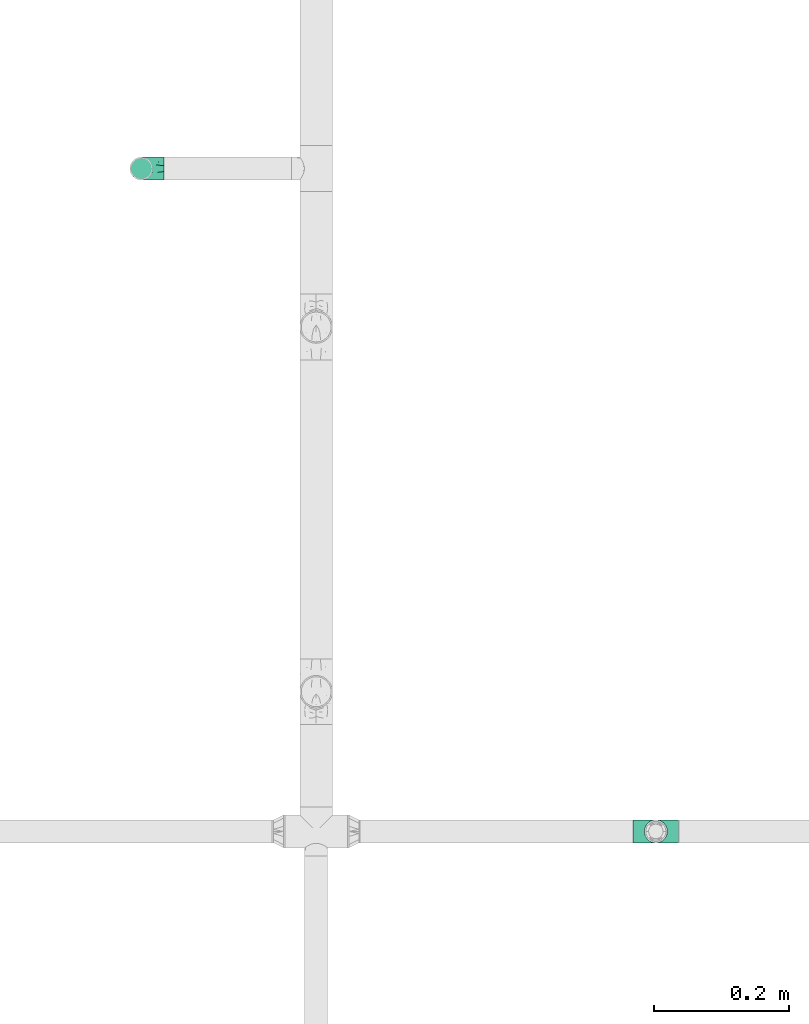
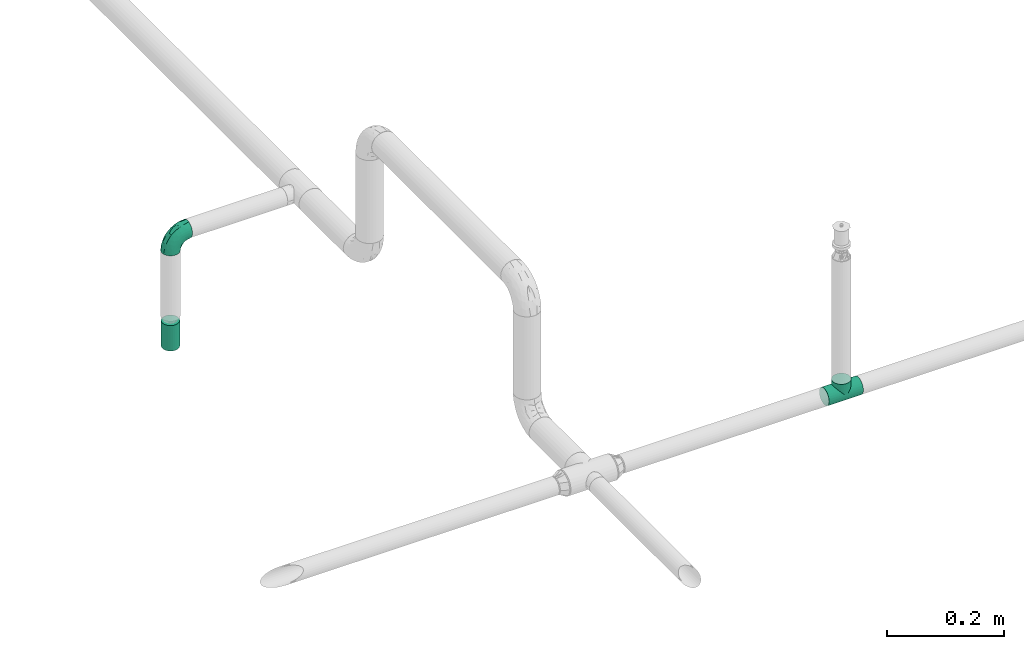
# One storey, part 43 of 157: 2 flow fittings, 1 flow terminal.
"""IFC2X3 building model written with IfcOpenShell, lengths in millimetres."""

from ifc_helpers import new_model, entity, si_unit, converted_unit, derived_unit, direction, frame, origin_with_axes, place, context, subcontext, project, spatial, open_shell, surface_model, source, transform, mapped, type_object, element, save


model = new_model("IFC2X3")

# Units and contexts
model_context = context("Model", 3, precision=0.01, world=frame((0.0, 4.29681676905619e-09, 0.0)), true_north=direction((4.01073788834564e-13, 1.0)))
plan_context = context("Plan", 3, precision=0.01, world=frame((0.0, 4.29681676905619e-09, 0.0)), true_north=direction((4.01073788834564e-13, 1.0)))
body_context = subcontext(model_context, "Body", "Model", "MODEL_VIEW")
ifc_project = project(units=[converted_unit("PLANEANGLEUNIT", "DEGREE", entity("IfcPositiveLengthMeasure", 0.0174532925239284), si_unit("PLANEANGLEUNIT", "RADIAN"), dimensions=[0, 0, 0, 0, 0, 0, 0]), si_unit("AREAUNIT", "SQUARE_METRE"), si_unit("LENGTHUNIT", "METRE", prefix="MILLI"), si_unit("MASSUNIT", "GRAM", prefix="KILO"), si_unit("POWERUNIT", "WATT"), si_unit("PRESSUREUNIT", "PASCAL"), si_unit("FORCEUNIT", "NEWTON", prefix="KILO"), si_unit("ELECTRICCURRENTUNIT", "AMPERE"), si_unit("THERMODYNAMICTEMPERATUREUNIT", "DEGREE_CELSIUS"), si_unit("TIMEUNIT", "SECOND"), si_unit("VOLUMEUNIT", "CUBIC_METRE"), derived_unit("LINEARVELOCITYUNIT", [(si_unit("LENGTHUNIT", "METRE"), 1), (si_unit("TIMEUNIT", "SECOND"), -1)]), derived_unit("VOLUMETRICFLOWRATEUNIT", [(si_unit("VOLUMEUNIT", "CUBIC_METRE"), 1), (si_unit("TIMEUNIT", "SECOND"), -1)]), derived_unit("THERMALTRANSMITTANCEUNIT", [(si_unit("POWERUNIT", "WATT"), 1), (si_unit("THERMODYNAMICTEMPERATUREUNIT", "KELVIN"), -1), (si_unit("AREAUNIT", "SQUARE_METRE"), -1)])], contexts=[model_context, plan_context])

# Site, building, storey
site_placement = place(None, frame((0.0, -4.29681676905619e-09, 0.0), z_axis=(0.0, 0.0, 1.0), x_axis=(1.0, 0.0, 0.0)))
site = spatial("IfcSite", under=ifc_project, at=site_placement, CompositionType="ELEMENT")
building_placement = place(site_placement, frame((0.0, 4.29681676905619e-09, 0.0), z_axis=(0.0, 0.0, 1.0), x_axis=(1.0, 0.0, 0.0)))
building = spatial("IfcBuilding", under=site, at=building_placement, Name="mc-building", CompositionType="ELEMENT")
storey_placement = place(building_placement, frame((0.0, 0.0, 204000.0), z_axis=(0.0, 0.0, 1.0), x_axis=(1.0, 0.0, 0.0)))
storey = spatial("IfcBuildingStorey", under=building, at=storey_placement, Name="Nivå D", CompositionType="ELEMENT", Elevation=204000.0)

# Flow fittings
pipe_fitting_type_1 = type_object("IfcPipeFittingType", Name="magi_pipe_fe_tee_centric_90_NOR", PredefinedType="JUNCTION")
shared_shape_1 = source(origin_with_axes(), body_context, "Body", "SurfaceModel", [
    surface_model("IfcShellBasedSurfaceModel", [(-33.8, 4.37404, -16.32415), (-33.8, 0.0, -16.9), (-33.8, 16.32415, -4.37404), (-33.8, 8.45, -14.63583), (-33.8, 11.9501, -11.9501), (-33.8, 14.63583, -8.45), (-33.8, -16.9, 0.0), (-33.8, -11.9501, -11.9501), (-33.8, -14.63583, -8.45), (-33.8, -8.45, -14.63583), (-33.8, -4.37404, -16.32415), (-33.8, -16.32415, -4.37404), (-33.8, 14.63583, 8.45), (-33.8, 16.32415, 4.37404), (-33.8, -8.45, 14.63583), (-33.8, 8.45, 14.63583), (-33.8, 11.9501, 11.9501), (-33.8, 4.37404, 16.32415), (-33.8, 0.0, 16.9), (-33.8, -11.9501, 11.9501), (-33.8, -14.63583, 8.45), (-33.8, -16.32415, 4.37404), (-33.8, -4.37404, 16.32415), (-33.8, 16.9, 0.0), (33.8, 4.37404, -16.32415), (33.8, -16.9, 0.0), (33.8, 0.0, -16.9), (33.8, 14.63583, -8.45), (33.8, 8.45, -14.63583), (33.8, 16.32415, -4.37404), (33.8, 11.9501, -11.9501), (33.8, -16.32415, 4.37404), (33.8, -8.45, -14.63583), (33.8, -4.37404, -16.32415), (33.8, -11.9501, -11.9501), (33.8, -14.63583, -8.45), (33.8, -16.32415, -4.37404), (33.8, 16.32415, 4.37404), (33.8, 8.45, 14.63583), (33.8, 14.63583, 8.45), (33.8, 11.9501, 11.9501), (33.8, -8.45, 14.63583), (33.8, 4.37404, 16.32415), (33.8, -14.63583, 8.45), (33.8, -11.9501, 11.9501), (33.8, 0.0, 16.9), (33.8, -4.37404, 16.32415), (33.8, 16.9, 0.0), (16.28698, -16.28698, 4.51047), (16.9, -16.9, 0.0), (14.62704, -14.62704, 8.4652), (9.47213, -9.47213, 13.99602), (12.26343, -12.26343, 11.62834), (-16.9, -16.9, 0.0), (-16.28698, -16.28698, 4.51047), (-14.62704, -14.62704, 8.4652), (-12.26343, -12.26343, 11.62834), (-9.47213, -9.47213, 13.99602), (-6.42894, -6.42894, 15.62942), (6.42894, -6.42894, 15.62942), (3.24522, -3.24522, 16.58549), (0.0, 0.0, 16.9), (-3.24522, -3.24522, 16.58549), (3.24522, -3.24522, -16.58549), (0.0, 0.0, -16.9), (-3.24522, -3.24522, -16.58549), (-6.42894, -6.42894, -15.62942), (6.42894, -6.42894, -15.62942), (9.47213, -9.47213, -13.99602), (12.26343, -12.26343, -11.62834), (14.62704, -14.62704, -8.4652), (16.28698, -16.28698, -4.51047), (-9.47213, -9.47213, -13.99602), (-12.26343, -12.26343, -11.62834), (-16.28698, -16.28698, -4.51047), (-14.62704, -14.62704, -8.4652), (4.37404, -25.35, -16.32415), (-16.9, -25.35, 0.0), (0.0, -25.35, -16.9), (14.63583, -25.35, -8.45), (8.45, -25.35, -14.63583), (16.32415, -25.35, -4.37404), (11.9501, -25.35, -11.9501), (-11.9501, -25.35, -11.9501), (-8.45, -25.35, -14.63583), (-4.37404, -25.35, -16.32415), (-14.63583, -25.35, -8.45), (-16.32415, -25.35, -4.37404), (16.9, -25.35, 0.0), (8.45, -25.35, 14.63583), (16.32415, -25.35, 4.37404), (14.63583, -25.35, 8.45), (-8.45, -25.35, 14.63583), (11.9501, -25.35, 11.9501), (4.37404, -25.35, 16.32415), (-16.32415, -25.35, 4.37404), (-11.9501, -25.35, 11.9501), (-14.63583, -25.35, 8.45), (0.0, -25.35, 16.9), (-4.37404, -25.35, 16.32415)], [open_shell([[[0, 1, 2]], [[3, 0, 4]], [[0, 2, 5]], [[4, 0, 5]], [[6, 2, 1]], [[7, 8, 9]], [[1, 10, 9]], [[11, 6, 8]], [[1, 9, 8]], [[1, 8, 6]], [[6, 12, 2]], [[12, 13, 2]], [[14, 12, 6]], [[12, 14, 15]], [[16, 12, 15]], [[17, 15, 18]], [[19, 14, 20]], [[21, 20, 14]], [[22, 18, 14]], [[14, 6, 21]], [[14, 18, 15]], [[23, 2, 13]], [[24, 25, 26]], [[27, 24, 28]], [[27, 29, 24]], [[27, 28, 30]], [[31, 25, 24]], [[26, 32, 33]], [[26, 34, 32]], [[35, 25, 36]], [[35, 34, 26]], [[25, 35, 26]], [[24, 29, 31]], [[29, 37, 38]], [[38, 37, 39]], [[38, 31, 29]], [[38, 39, 40]], [[41, 38, 42]], [[43, 41, 44]], [[41, 43, 31]], [[41, 45, 46]], [[41, 31, 38]], [[42, 45, 41]], [[29, 47, 37]], [[31, 43, 48]], [[25, 31, 49]], [[49, 31, 48]], [[43, 50, 48]], [[44, 41, 51]], [[50, 43, 52]], [[51, 52, 44]], [[52, 43, 44]], [[53, 54, 21]], [[53, 21, 6]], [[21, 54, 20]], [[54, 55, 20]], [[56, 57, 19]], [[19, 20, 56]], [[19, 57, 14]], [[56, 20, 55]], [[14, 57, 58]], [[51, 41, 59]], [[60, 45, 61]], [[59, 46, 60]], [[46, 59, 41]], [[60, 46, 45]], [[61, 45, 42]], [[39, 37, 13]], [[16, 38, 40]], [[12, 40, 39]], [[42, 38, 15]], [[23, 37, 47]], [[62, 61, 18]], [[62, 22, 58]], [[22, 62, 18]], [[58, 22, 14]], [[61, 17, 18]], [[42, 17, 61]], [[15, 17, 42]], [[15, 38, 16]], [[12, 16, 40]], [[13, 12, 39]], [[37, 23, 13]], [[5, 27, 30]], [[23, 47, 29]], [[30, 28, 3]], [[27, 2, 29]], [[26, 33, 63]], [[26, 64, 24]], [[64, 26, 63]], [[28, 24, 0]], [[64, 0, 24]], [[4, 30, 3]], [[2, 27, 5]], [[5, 30, 4]], [[2, 23, 29]], [[65, 66, 10]], [[1, 0, 64]], [[1, 65, 10]], [[66, 9, 10]], [[0, 3, 28]], [[1, 64, 65]], [[63, 33, 67]], [[32, 34, 68]], [[69, 68, 34]], [[35, 70, 69]], [[69, 34, 35]], [[32, 68, 67]], [[36, 25, 49]], [[36, 71, 35]], [[71, 36, 49]], [[35, 71, 70]], [[72, 9, 66]], [[72, 7, 9]], [[7, 72, 73]], [[7, 73, 8]], [[74, 53, 11]], [[75, 74, 8]], [[74, 11, 8]], [[11, 53, 6]], [[75, 8, 73]], [[32, 67, 33]], [[76, 77, 78]], [[79, 76, 80]], [[79, 81, 76]], [[79, 80, 82]], [[77, 76, 81]], [[78, 83, 84]], [[84, 85, 78]], [[86, 77, 87]], [[83, 78, 86]], [[77, 86, 78]], [[81, 88, 77]], [[89, 88, 90]], [[89, 90, 91]], [[92, 77, 89]], [[89, 91, 93]], [[92, 89, 94]], [[95, 96, 97]], [[96, 95, 92]], [[92, 98, 99]], [[95, 77, 92]], [[94, 98, 92]], [[89, 77, 88]], [[77, 95, 53]], [[54, 53, 95]], [[97, 96, 56]], [[96, 92, 57]], [[95, 97, 54]], [[58, 92, 99]], [[55, 54, 97]], [[56, 55, 97]], [[58, 57, 92]], [[98, 61, 62]], [[58, 99, 62]], [[56, 96, 57]], [[62, 99, 98]], [[94, 60, 98]], [[89, 59, 94]], [[91, 90, 48]], [[52, 93, 91]], [[93, 51, 89]], [[49, 90, 88]], [[59, 60, 94]], [[51, 59, 89]], [[49, 48, 90]], [[50, 52, 91]], [[48, 50, 91]], [[51, 93, 52]], [[98, 60, 61]], [[88, 81, 49]], [[71, 49, 81]], [[79, 82, 69]], [[82, 80, 68]], [[81, 79, 71]], [[67, 80, 76]], [[70, 71, 79]], [[69, 70, 79]], [[67, 68, 80]], [[78, 64, 63]], [[67, 76, 63]], [[69, 82, 68]], [[63, 76, 78]], [[85, 65, 78]], [[84, 66, 85]], [[86, 87, 74]], [[86, 73, 83]], [[72, 84, 83]], [[53, 87, 77]], [[66, 65, 85]], [[72, 66, 84]], [[53, 74, 87]], [[75, 73, 86]], [[74, 75, 86]], [[72, 83, 73]], [[78, 65, 64]]])]),
])
flow_fitting_1_placement = place(storey_placement, frame((528259.57985, 407221.65, 2880.0), z_axis=(0.0, 1.0, 0.0), x_axis=(1.0, 0.0, 0.0)))
element("IfcFlowFitting", 1, at=flow_fitting_1_placement, inside=storey, type_object=pipe_fitting_type_1, Name="magi_pipe_fe_tee_centric_90_NOR", context=body_context, shape_type="MappedRepresentation", body=[
    mapped(shared_shape_1, transform((0.0, 0.0, 0.0), scale=1.0)),
])
pipe_fitting_type_2 = type_object("IfcPipeFittingType", Name="magi_pipe_fe_elbow_short_001", PredefinedType="BEND")
shared_shape_2 = source(origin_with_axes(), body_context, "Body", "SurfaceModel", [
    surface_model("IfcShellBasedSurfaceModel", [(-33.8, 8.45, -14.63583), (-33.8, 4.37404, -16.32415), (-33.8, 11.9501, -11.9501), (-33.8, -11.9501, -11.9501), (-33.8, -14.63583, -8.45), (-33.8, -8.45, -14.63583), (-33.8, 0.0, -16.9), (-33.8, -4.37404, -16.32415), (-33.8, -4.37404, 16.32415), (-33.8, 0.0, 16.9), (-33.8, -8.45, 14.63583), (-33.8, 16.32415, -4.37404), (-33.8, 14.63583, -8.45), (-33.8, -16.32415, -4.37404), (-33.8, -16.9, 0.0), (-33.8, -16.32415, 4.37404), (-33.8, 11.9501, 11.9501), (-33.8, 14.63583, 8.45), (-33.8, 16.32415, 4.37404), (-33.8, 4.37404, 16.32415), (-33.8, 8.45, 14.63583), (-33.8, -14.63583, 8.45), (-33.8, -11.9501, 11.9501), (-33.8, 16.9, 0.0), (-11.9501, 33.8, -11.9501), (0.0, 33.8, -16.9), (-4.37404, 33.8, -16.32415), (-8.45, 33.8, -14.63583), (-14.63583, 33.8, -8.45), (-16.32415, 33.8, -4.37404), (14.63583, 33.8, -8.45), (8.45, 33.8, 14.63583), (16.32415, 33.8, -4.37404), (8.45, 33.8, -14.63583), (11.9501, 33.8, -11.9501), (4.37404, 33.8, -16.32415), (16.32415, 33.8, 4.37404), (16.9, 33.8, 0.0), (-11.9501, 33.8, 11.9501), (-16.32415, 33.8, 4.37404), (-14.63583, 33.8, 8.45), (-8.45, 33.8, 14.63583), (-4.37404, 33.8, 16.32415), (11.9501, 33.8, 11.9501), (14.63583, 33.8, 8.45), (0.0, 33.8, 16.9), (4.37404, 33.8, 16.32415), (-16.9, 33.8, 0.0), (-24.79389, -13.12945, 9.48721), (-22.19287, -9.75018, 12.59315), (-24.09897, -14.97035, 0.0), (-14.93934, -10.76256, 8.5297), (-22.46095, -14.75051, 5.27077), (14.75051, 22.46094, 5.27077), (11.9251, 13.23888, 4.33236), (13.04069, 14.39795, 0.0), (7.71387, 13.68847, 11.55891), (9.75018, 22.19287, 12.59315), (4.10169, 13.0571, 14.04018), (-24.84007, -6.39063, 15.2048), (-25.81779, -2.23879, 16.61097), (-23.66549, 2.59054, 16.87119), (-26.50418, 14.06512, 11.08152), (-24.21253, 17.66365, 7.72657), (-29.58514, 15.86957, 7.00283), (-6.17382, -7.5455, 0.0), (-13.23888, -11.9251, 4.33236), (-14.39795, -13.04069, 0.0), (-17.81434, 18.87373, 11.97104), (-6.30846, 29.15138, 15.82987), (-2.31622, 25.28002, 16.85849), (-29.23923, 10.23435, 13.77053), (-1.45439, -2.85688, 7.61475), (-0.28326, 0.34872, 10.09509), (-5.74484, -4.04709, 10.4122), (-4.41137, 11.31918, 16.59407), (-8.39727, 3.10034, 15.7812), (-1.72649, 9.1306, 15.53089), (-17.39909, 24.75344, 7.64977), (-26.19233, 20.0512, 0.0), (-28.14518, 17.29657, 4.25857), (-26.05147, 6.6281, 15.96447), (-5.87354, 16.61944, 16.86968), (-12.51807, 12.51807, 16.48937), (-10.06312, 7.38516, 16.81295), (-3.01882, 3.01882, 13.81718), (-13.0571, -4.10169, 14.04018), (-16.82553, -0.15166, 16.38038), (10.76256, 14.93934, 8.5297), (13.12945, 24.79389, 9.48721), (6.39063, 24.84007, 15.2048), (2.23879, 25.81779, 16.61097), (-13.68847, -7.71387, 11.55891), (14.97035, 24.09897, 0.0), (-7.30894, 22.89991, 16.09489), (-10.67958, 26.17414, 14.008), (-12.78295, 18.26924, 15.06066), (-13.88562, 22.45231, 12.93244), (-18.04944, 15.16501, 14.04434), (-23.11658, 20.08178, 4.02986), (-21.84989, 21.84989, 0.0), (-18.55817, 25.48277, 3.93065), (-13.95142, 26.94732, 11.03289), (-18.57098, 7.23906, 16.59756), (-16.58335, 4.14122, 16.89279), (-17.96666, 11.46709, 15.63151), (-9.84453, 17.54304, 16.18938), (0.15166, 16.82553, 16.38038), (-23.27207, 11.47201, 14.23154), (3.84842, 5.86994, 10.70473), (-8.0212, -7.54413, 7.93275), (1.00345, -2.19508, 4.57414), (5.13203, 3.01004, 5.90201), (5.24161, 1.7543, 2.53265), (8.70457, 7.04947, 3.99182), (-20.0512, 26.19233, 0.0), (8.4852, 8.76699, 7.09296), (-4.55488, -6.72064, 4.90681), (2.05031, -2.05031, 0.0), (7.5455, 6.17382, 0.0), (-26.75399, 2.1369, -16.845), (-14.61995, 24.73803, -11.27736), (-28.45274, -13.45335, -9.81895), (-26.00469, 6.63555, -15.96645), (-23.06726, 20.04573, -4.26202), (-13.80647, -4.26506, -14.17873), (-14.67501, -0.21081, -16.07388), (-6.7902, -0.2828, -13.8478), (-24.53586, 11.08096, -14.13417), (-26.72048, 14.00837, -11.05776), (10.0967, 24.44989, -12.75976), (5.83237, 21.40218, -15.03047), (6.66249, 28.54238, -15.38093), (-20.38182, 15.48705, -12.74596), (12.53268, 21.23441, -9.15363), (12.54494, 15.67504, -5.54878), (9.7522, 12.89279, -8.66343), (-15.65186, 19.64213, -13.01327), (-12.03528, 20.66498, -14.67665), (-15.61907, 15.61906, -14.83879), (-25.56551, -15.26206, 0.0), (-24.65452, -15.12934, -5.50955), (13.45335, 28.45274, -9.81895), (15.12934, 24.65452, -5.50955), (-7.35442, -8.31014, -5.65563), (-15.67504, -12.54494, -5.54878), (-24.44989, -10.0967, -12.75976), (0.16522, 0.41303, -9.71728), (-5.70658, -5.33066, -8.89288), (-5.13869, -2.37198, -11.53565), (-21.23441, -12.53268, -9.15363), (0.71146, 7.93863, -14.09382), (0.21081, 14.67501, -16.07388), (3.49291, 14.42772, -14.76381), (-24.89911, -2.13088, -16.591), (-28.54238, -6.66249, -15.38093), (-18.44386, -7.71663, -13.26957), (2.13088, 24.89911, -16.591), (-28.64342, 17.44413, -2.89318), (1.70017, -1.28722, -5.09504), (-16.57067, 26.81947, -7.36596), (-17.69055, 27.4263, -3.76405), (-12.89279, -9.7522, -8.66343), (-5.96611, 5.96611, -15.95814), (-20.53709, 20.09345, -8.28985), (-2.1369, 26.75399, -16.845), (-6.89872, 24.58781, -16.02578), (-10.60739, 26.53157, -13.98044), (-21.40218, -5.83237, -15.03047), (2.93192, 5.89627, -11.55917), (6.89393, 12.61842, -11.82233), (5.58056, 5.95325, -8.79455), (-3.99512, 18.61798, -16.89635), (8.31014, 7.35442, -5.65563), (-9.1383, 9.86148, -16.89041), (-9.99983, 16.02119, -16.39699), (-16.68576, 9.78031, -16.34199), (-27.01915, 16.61158, -7.12979), (15.26206, 25.56551, 0.0), (-18.61798, 3.99512, -16.89635), (-19.37495, 27.82495, 0.0), (-12.61842, -6.89393, -11.82233), (-18.84705, 19.14018, -10.96545)], [open_shell([[[0, 1, 2]], [[3, 4, 5]], [[6, 7, 5]], [[8, 9, 10]], [[1, 6, 2]], [[11, 12, 2]], [[4, 2, 6]], [[2, 13, 10]], [[5, 4, 6]], [[2, 4, 13]], [[14, 15, 13]], [[11, 2, 16]], [[11, 17, 18]], [[11, 16, 17]], [[19, 20, 16]], [[16, 2, 10]], [[19, 16, 10]], [[21, 22, 15]], [[22, 13, 15]], [[22, 10, 13]], [[10, 9, 19]], [[11, 18, 23]], [[24, 25, 26]], [[24, 26, 27]], [[24, 28, 29]], [[25, 24, 30]], [[31, 32, 24]], [[33, 30, 34]], [[33, 35, 25]], [[25, 30, 33]], [[32, 30, 24]], [[32, 36, 37]], [[38, 24, 29]], [[39, 40, 29]], [[40, 38, 29]], [[38, 41, 42]], [[38, 31, 24]], [[31, 38, 42]], [[36, 43, 44]], [[36, 32, 43]], [[31, 45, 46]], [[32, 31, 43]], [[42, 45, 31]], [[39, 29, 47]], [[22, 48, 49]], [[15, 14, 50]], [[51, 48, 52]], [[53, 54, 55]], [[48, 22, 21]], [[15, 52, 21]], [[56, 57, 58]], [[49, 10, 22]], [[49, 59, 10]], [[9, 60, 61]], [[62, 63, 64]], [[65, 66, 67]], [[57, 43, 31]], [[62, 68, 63]], [[42, 69, 70]], [[20, 71, 16]], [[8, 60, 9]], [[72, 73, 74]], [[75, 76, 77]], [[16, 62, 17]], [[40, 39, 78]], [[79, 23, 80]], [[64, 18, 17]], [[9, 61, 19]], [[19, 81, 20]], [[82, 83, 84]], [[74, 85, 86]], [[59, 86, 87]], [[88, 89, 57]], [[90, 31, 46]], [[44, 53, 36]], [[46, 45, 91]], [[54, 53, 88]], [[44, 89, 53]], [[92, 86, 49]], [[89, 44, 43]], [[10, 59, 8]], [[53, 55, 93]], [[93, 36, 53]], [[66, 52, 67]], [[94, 82, 70]], [[95, 96, 94]], [[97, 98, 96]], [[79, 99, 100]], [[41, 38, 95]], [[101, 100, 99]], [[68, 78, 63]], [[42, 41, 69]], [[23, 18, 80]], [[95, 94, 69]], [[78, 101, 99]], [[38, 102, 95]], [[70, 45, 42]], [[97, 95, 102]], [[15, 50, 52]], [[90, 57, 31]], [[57, 90, 58]], [[81, 19, 61]], [[103, 104, 84]], [[105, 81, 103]], [[38, 40, 102]], [[106, 96, 83]], [[94, 106, 82]], [[91, 70, 107]], [[71, 62, 16]], [[62, 108, 98]], [[86, 59, 49]], [[67, 52, 50]], [[60, 59, 87]], [[92, 49, 51]], [[86, 85, 76]], [[91, 90, 46]], [[37, 36, 93]], [[107, 77, 58]], [[107, 58, 90]], [[58, 85, 109]], [[110, 74, 92]], [[72, 74, 110]], [[66, 51, 52]], [[72, 111, 112]], [[113, 114, 112]], [[56, 88, 57]], [[52, 48, 21]], [[49, 48, 51]], [[57, 89, 43]], [[53, 89, 88]], [[103, 81, 61]], [[71, 81, 108]], [[18, 64, 80]], [[63, 78, 99]], [[47, 115, 101]], [[101, 115, 100]], [[40, 78, 102]], [[68, 102, 78]], [[97, 96, 95]], [[105, 98, 108]], [[103, 84, 83]], [[107, 70, 82]], [[76, 84, 87]], [[82, 84, 75]], [[70, 91, 45]], [[90, 91, 107]], [[59, 60, 8]], [[61, 60, 87]], [[73, 85, 74]], [[109, 112, 116]], [[103, 61, 104]], [[105, 103, 83]], [[96, 105, 83]], [[81, 105, 108]], [[96, 98, 105]], [[62, 98, 68]], [[61, 87, 104]], [[87, 84, 104]], [[86, 76, 87]], [[77, 76, 85]], [[58, 77, 85]], [[75, 77, 107]], [[82, 75, 107]], [[76, 75, 84]], [[81, 71, 20]], [[62, 71, 108]], [[95, 69, 41]], [[70, 69, 94]], [[62, 64, 17]], [[80, 63, 99]], [[63, 80, 64]], [[80, 99, 79]], [[66, 65, 117]], [[110, 66, 117]], [[112, 114, 116]], [[118, 117, 65]], [[110, 92, 51]], [[112, 111, 113]], [[119, 55, 54]], [[74, 86, 92]], [[58, 109, 56]], [[116, 56, 109]], [[66, 110, 51]], [[72, 110, 117]], [[111, 72, 117]], [[73, 112, 109]], [[117, 118, 111]], [[113, 111, 118]], [[118, 119, 113]], [[114, 119, 54]], [[119, 114, 113]], [[116, 54, 88]], [[54, 116, 114]], [[116, 88, 56]], [[112, 73, 72]], [[85, 73, 109]], [[78, 39, 101]], [[47, 101, 39]], [[102, 68, 97]], [[97, 68, 98]], [[82, 106, 83]], [[94, 96, 106]], [[1, 120, 6]], [[28, 24, 121]], [[3, 122, 4]], [[0, 123, 1]], [[100, 124, 79]], [[125, 126, 127]], [[128, 2, 129]], [[130, 131, 132]], [[128, 129, 133]], [[134, 135, 136]], [[137, 138, 139]], [[128, 0, 2]], [[67, 140, 141]], [[134, 142, 143]], [[141, 13, 4]], [[144, 65, 145]], [[146, 3, 5]], [[147, 148, 149]], [[145, 141, 150]], [[151, 152, 153]], [[154, 7, 6]], [[5, 155, 146]], [[150, 146, 156]], [[155, 5, 7]], [[143, 135, 134]], [[35, 157, 25]], [[23, 79, 158]], [[148, 159, 144]], [[160, 161, 29]], [[145, 162, 144]], [[163, 152, 151]], [[29, 28, 160]], [[121, 164, 160]], [[33, 34, 130]], [[25, 165, 26]], [[26, 165, 166]], [[142, 34, 30]], [[24, 27, 167]], [[124, 161, 164]], [[157, 35, 132]], [[155, 154, 168]], [[123, 0, 128]], [[169, 170, 171]], [[172, 157, 152]], [[26, 166, 27]], [[132, 35, 33]], [[142, 130, 34]], [[168, 154, 126]], [[136, 135, 173]], [[133, 137, 139]], [[2, 12, 129]], [[170, 131, 130]], [[30, 32, 143]], [[172, 174, 175]], [[176, 123, 128]], [[158, 177, 11]], [[135, 55, 119]], [[167, 27, 166]], [[175, 166, 172]], [[137, 167, 138]], [[122, 141, 4]], [[140, 14, 13]], [[32, 37, 178]], [[170, 130, 134]], [[152, 157, 131]], [[165, 157, 172]], [[153, 170, 151]], [[152, 163, 174]], [[168, 125, 156]], [[122, 146, 150]], [[120, 154, 6]], [[179, 174, 126]], [[179, 126, 154]], [[126, 163, 127]], [[162, 145, 150]], [[140, 13, 141]], [[32, 178, 143]], [[55, 143, 178]], [[177, 129, 12]], [[128, 133, 139]], [[176, 128, 139]], [[120, 123, 179]], [[121, 160, 28]], [[161, 100, 180]], [[166, 175, 138]], [[121, 24, 167]], [[161, 47, 29]], [[79, 124, 158]], [[124, 164, 177]], [[161, 124, 100]], [[136, 171, 170]], [[127, 163, 151]], [[147, 171, 159]], [[148, 144, 162]], [[127, 151, 169]], [[127, 181, 125]], [[129, 177, 164]], [[12, 11, 177]], [[159, 65, 144]], [[67, 141, 145]], [[143, 55, 135]], [[135, 119, 173]], [[123, 120, 1]], [[154, 120, 179]], [[157, 165, 25]], [[166, 165, 172]], [[172, 152, 174]], [[176, 139, 175]], [[126, 174, 163]], [[176, 174, 179]], [[174, 176, 175]], [[123, 176, 179]], [[150, 181, 162]], [[127, 149, 181]], [[181, 148, 162]], [[159, 148, 147]], [[171, 136, 173]], [[170, 134, 136]], [[159, 171, 173]], [[171, 147, 169]], [[169, 147, 149]], [[151, 170, 169]], [[164, 182, 129]], [[182, 121, 137]], [[181, 149, 148]], [[169, 149, 127]], [[182, 137, 133]], [[167, 137, 121]], [[166, 138, 167]], [[175, 139, 138]], [[129, 182, 133]], [[121, 182, 164]], [[161, 160, 164]], [[47, 161, 180]], [[177, 158, 124]], [[23, 158, 11]], [[130, 132, 33]], [[157, 132, 131]], [[143, 142, 30]], [[130, 142, 134]], [[154, 155, 7]], [[146, 155, 168]], [[146, 122, 3]], [[141, 122, 150]], [[152, 131, 153]], [[159, 119, 118]], [[67, 145, 65]], [[170, 153, 131]], [[119, 159, 173]], [[159, 118, 65]], [[156, 125, 181]], [[126, 125, 168]], [[150, 156, 181]], [[168, 156, 146]]])]),
])
flow_fitting_2_placement = place(storey_placement, frame((527500.0, 408200.0, 2880.0), z_axis=(0.0, 1.0, 0.0), x_axis=(0.0, 0.0, 1.0)))
element("IfcFlowFitting", 2, at=flow_fitting_2_placement, inside=storey, type_object=pipe_fitting_type_2, Name="magi_pipe_fe_elbow_short_001", context=body_context, shape_type="MappedRepresentation", body=[
    mapped(shared_shape_2, transform((0.0, 0.0, 0.0), scale=1.0)),
])

# Flow terminal
fire_suppression_terminal_type = type_object("IfcFireSuppressionTerminalType", Name="SP-15-K80-68DGR-STD-HIMLING", PredefinedType="NOTDEFINED")
shared_shape_3 = source(origin_with_axes(), body_context, "Body", "SurfaceModel", [
    surface_model("IfcShellBasedSurfaceModel", [(4.1411, -15.45481, 53.0), (8.0, -13.85641, 53.0), (11.31371, -11.31371, 53.0), (-8.0, -13.85641, 53.0), (15.45481, -4.1411, 53.0), (16.0, 0.0, 53.0), (13.85641, -8.0, 53.0), (0.0, -16.0, 53.0), (-4.1411, -15.45481, 53.0), (-13.85641, -8.0, 53.0), (-11.31371, -11.31371, 53.0), (-15.45481, -4.1411, 53.0), (15.45481, 4.1411, 53.0), (13.85641, 8.0, 53.0), (11.31371, 11.31371, 53.0), (-4.1411, 15.45481, 53.0), (8.0, 13.85641, 53.0), (4.1411, 15.45481, 53.0), (0.0, 16.0, 53.0), (-13.85641, 8.0, 53.0), (-15.45481, 4.1411, 53.0), (-16.0, 0.0, 53.0), (-11.31371, 11.31371, 53.0), (-8.0, 13.85641, 53.0), (0.0, 16.0, 0.0), (4.1411, 15.45481, 0.0), (8.0, 13.85641, 0.0), (-4.1411, 15.45481, 0.0), (11.31371, 11.31371, 0.0), (13.85641, 8.0, 0.0), (15.45481, 4.1411, 0.0), (-15.45481, -4.1411, 0.0), (-11.31371, 11.31371, 0.0), (-8.0, 13.85641, 0.0), (-13.85641, 8.0, 0.0), (-15.45481, 4.1411, 0.0), (-16.0, 0.0, 0.0), (4.1411, -15.45481, 0.0), (16.0, 0.0, 0.0), (15.45481, -4.1411, 0.0), (13.85641, -8.0, 0.0), (11.31371, -11.31371, 0.0), (8.0, -13.85641, 0.0), (-8.0, -13.85641, 0.0), (-13.85641, -8.0, 0.0), (-11.31371, -11.31371, 0.0), (0.0, -16.0, 0.0), (-4.1411, -15.45481, 0.0)], [open_shell([[[0, 1, 2]], [[3, 0, 2]], [[4, 5, 2]], [[4, 2, 6]], [[3, 2, 5]], [[7, 3, 8]], [[7, 0, 3]], [[3, 9, 10]], [[9, 3, 11]], [[5, 11, 3]], [[5, 12, 11]], [[12, 13, 14]], [[15, 12, 14]], [[16, 17, 18]], [[14, 16, 15]], [[18, 15, 16]], [[11, 19, 20]], [[21, 11, 20]], [[22, 15, 23]], [[15, 22, 19]], [[19, 11, 15]], [[11, 12, 15]], [[24, 25, 26]], [[27, 24, 26]], [[28, 29, 30]], [[27, 26, 28]], [[27, 28, 31]], [[27, 32, 33]], [[32, 27, 34]], [[34, 31, 35]], [[31, 34, 27]], [[35, 31, 36]], [[28, 30, 31]], [[37, 38, 39]], [[37, 39, 40]], [[41, 42, 37]], [[41, 37, 40]], [[38, 37, 43]], [[44, 43, 45]], [[43, 44, 31]], [[43, 46, 47]], [[43, 31, 38]], [[37, 46, 43]], [[38, 31, 30]], [[11, 31, 44]], [[45, 9, 44]], [[3, 43, 47]], [[45, 43, 10]], [[8, 47, 46]], [[31, 21, 36]], [[31, 11, 21]], [[44, 9, 11]], [[45, 10, 9]], [[3, 10, 43]], [[47, 8, 3]], [[46, 7, 8]], [[0, 37, 42]], [[41, 1, 42]], [[6, 40, 39]], [[41, 40, 2]], [[4, 39, 38]], [[37, 0, 7]], [[42, 1, 0]], [[41, 2, 1]], [[40, 6, 2]], [[4, 6, 39]], [[38, 5, 4]], [[37, 7, 46]], [[12, 38, 30]], [[13, 30, 29]], [[16, 26, 25]], [[17, 25, 24]], [[30, 13, 12]], [[12, 5, 38]], [[28, 14, 13]], [[28, 26, 14]], [[14, 26, 16]], [[25, 17, 16]], [[28, 13, 29]], [[24, 18, 17]], [[15, 27, 33]], [[32, 23, 33]], [[19, 34, 35]], [[32, 34, 22]], [[20, 35, 36]], [[27, 15, 18]], [[33, 23, 15]], [[32, 22, 23]], [[34, 19, 22]], [[20, 19, 35]], [[36, 21, 20]], [[27, 18, 24]]])]),
])
flow_terminal_placement = place(storey_placement, frame((527500.0, 408200.0, 2700.0), z_axis=(0.0, 0.0, -1.0), x_axis=(1.0, 0.0, 0.0)))
element("IfcFlowTerminal", 3, at=flow_terminal_placement, inside=storey, type_object=fire_suppression_terminal_type, Name="SP-15-K80-68DGR-STD-HIMLING", context=body_context, shape_type="MappedRepresentation", body=[
    mapped(shared_shape_3, transform((0.0, 0.0, 0.0), scale=1.0)),
])

save(model, "model.ifc")
